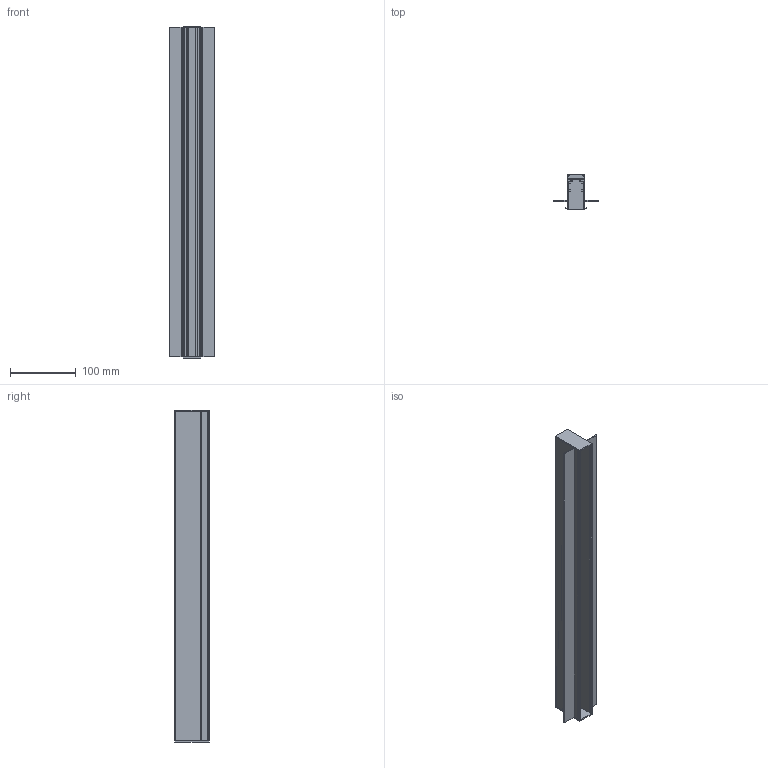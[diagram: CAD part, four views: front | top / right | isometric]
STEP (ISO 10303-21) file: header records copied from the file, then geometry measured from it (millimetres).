
FILE_DESCRIPTION(/* description */ (''),/* implementation_level */ '2;1');
FILE_NAME(/* name */ 'AR.stp',/* time_stamp */ '2020-08-29T14:43:38+08:00',/* author */ (''),/* organization */ (''),/* preprocessor_version */ 'ST-DEVELOPER v14',/* originating_system */ 'SIEMENS PLM Software NX 8.0',/* authorisation */ '');
FILE_SCHEMA (('AP203_CONFIGURATION_CONTROLLED_3D_DESIGN_OF_MECHANICAL_PARTS_AND_ASSEMBLIES_MIM_LF { 1 0 10303 403 2 1 2}'));
Length unit declared in the file: millimetre
Products named in the file (1): Admi0C3C7558szgp
Bounding box: 69.61 x 52.5 x 504 mm (x, y, z)
Volume: 205547 mm3; surface area: 266998 mm2
Topology: 9 solids, 9 shells, 339 faces, 930 edges, 620 vertices
Faces by surface type: plane 219, cylinder 74, extrusion 46
Full cylindrical faces by diameter (mm): 2.3 x4
Entity records: 11201 total; most frequent: CARTESIAN_POINT 2633, ORIENTED_EDGE 1852, DIRECTION 1571, EDGE_CURVE 926, VECTOR 687, LINE 641, VERTEX_POINT 620, AXIS2_PLACEMENT_3D 442
